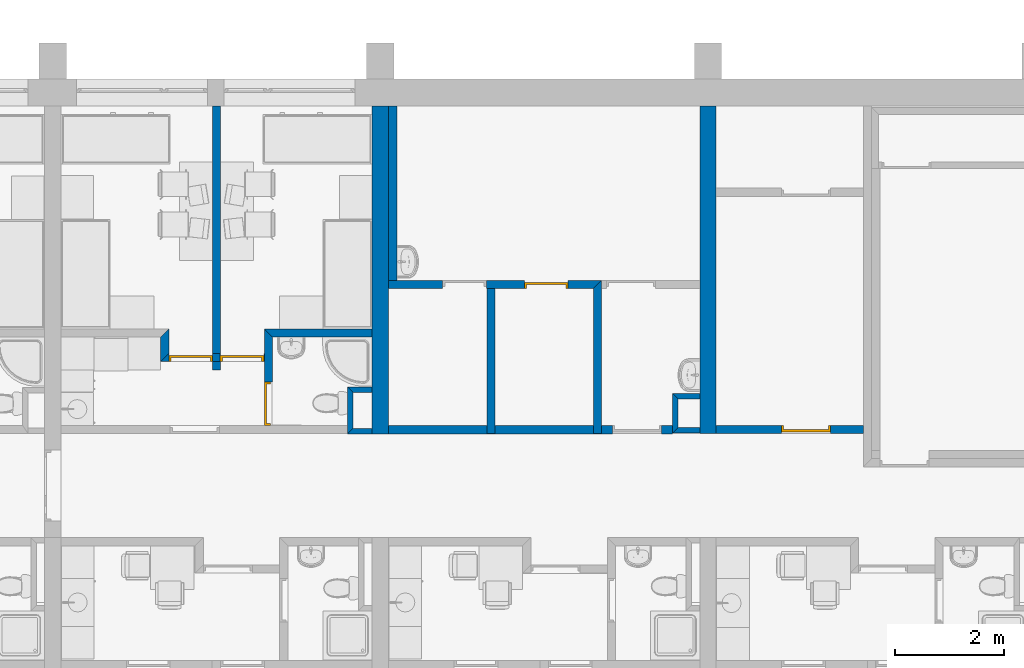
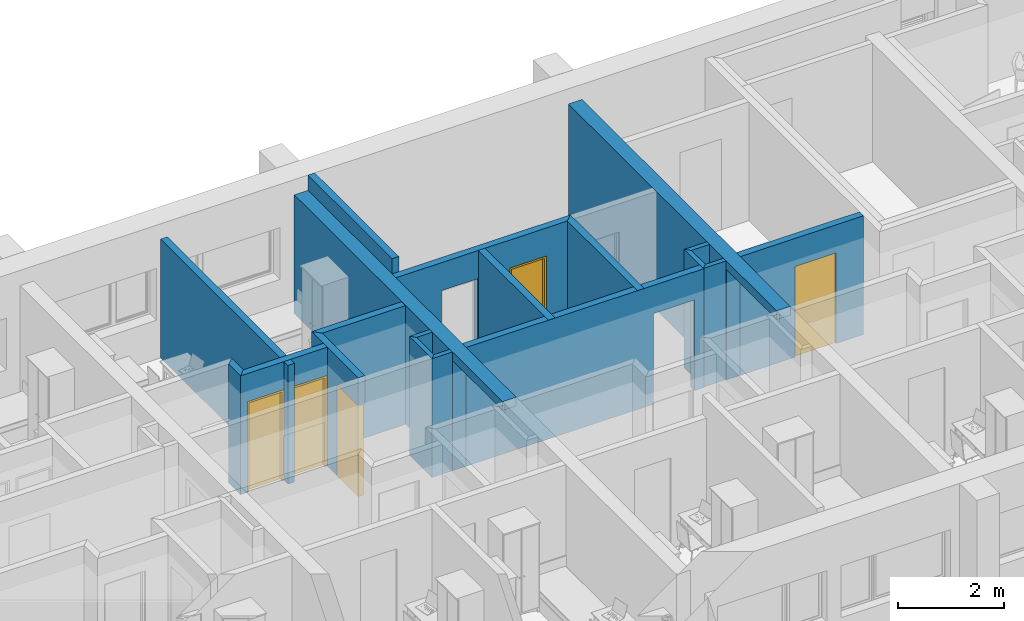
# One storey, part 8 of 172: 19 walls, 5 doors, 9 openings.
"""IFC2X3 building model written with IfcOpenShell, lengths in millimetres."""

import ifcopenshell
import ifcopenshell.guid

model = None  # the IFC model being written
_history = None  # IfcOwnerHistory: only IFC2X3 demands one
_inside = {}  # id of a spatial element -> (the spatial element, [elements in it])
_under = {}  # id of a project, library or spatial element -> (it, [spatial elements below it])
_declared = {}  # id of a project -> (the project, [libraries it declares])
_typed = {}  # id of a type object -> (the type object, [elements of that type])
_made_of = {}  # id of a material, layer set ... -> (it, [elements and type objects made of it])


def new_model(schema):
    """Start an empty IFC model of exactly this schema.

    Asked for "IFC4X3", IfcOpenShell would pick the latest addendum, in which some entities
    have other attributes; the version numbers below select the first issue.
    IFC2X3 requires an IfcOwnerHistory on every rooted entity: one is made here for all.
    """
    global model, _history
    if schema == "IFC4X3":
        model = ifcopenshell.file(schema_version=(4, 3, 0, 0))
    else:
        model = ifcopenshell.file(schema=schema)
    _inside.clear()
    _under.clear()
    _declared.clear()
    _typed.clear()
    _made_of.clear()
    _history = None
    if model.schema == "IFC2X3":
        org = make("IfcOrganization", Name="unknown")
        user = make(
            "IfcPersonAndOrganization",
            ThePerson=make("IfcPerson", FamilyName="unknown"),
            TheOrganization=org,
        )
        app = make(
            "IfcApplication",
            ApplicationDeveloper=org,
            Version="unknown",
            ApplicationFullName="unknown",
            ApplicationIdentifier="unknown",
        )
        _history = make(
            "IfcOwnerHistory",
            OwningUser=user,
            OwningApplication=app,
            ChangeAction="ADDED",
            CreationDate=0,
        )
    return model


def make(cls, **values):
    """One entity of the class cls with the attributes given. An attribute that is None is left unset."""
    return model.create_entity(
        cls, **{name: value for name, value in values.items() if value is not None}
    )


def entity(cls, *values):
    """Any entity or typed value of the class cls, its attributes in the order of the schema. None: left unset."""
    e = model.create_entity(cls)
    for i, value in enumerate(values):
        if value is not None:
            e[i] = value
    return e


def rooted(cls, **values):
    """An entity with a GlobalId (a new one), such as an element, a storey or a relation."""
    return make(cls, GlobalId=ifcopenshell.guid.new(), OwnerHistory=_history, **values)


def si_unit(unit_type, name, prefix=None):
    """IfcSIUnit, for example si_unit("LENGTHUNIT", "METRE", prefix="MILLI")."""
    return make("IfcSIUnit", UnitType=unit_type, Prefix=prefix, Name=name)


def converted_unit(unit_type, name, factor, base, dimensions=None, offset=None):
    """IfcConversionBasedUnit, such as the inch: factor (a typed value) times the base unit."""
    return make(
        "IfcConversionBasedUnit"
        if offset is None
        else "IfcConversionBasedUnitWithOffset",
        ConversionOffset=offset,
        Dimensions=None
        if dimensions is None
        else entity("IfcDimensionalExponents", *dimensions),
        UnitType=unit_type,
        Name=name,
        ConversionFactor=make(
            "IfcMeasureWithUnit", ValueComponent=factor, UnitComponent=base
        ),
    )


def money_unit(currency):
    """IfcMonetaryUnit."""
    return make("IfcMonetaryUnit", Currency=currency)


def assignment(units):
    """IfcUnitAssignment: the units of a project."""
    return None if units is None else make("IfcUnitAssignment", Units=units)


def point(xyz):
    """IfcCartesianPoint."""
    return None if xyz is None else make("IfcCartesianPoint", Coordinates=xyz)


def direction(xyz):
    """IfcDirection."""
    return None if xyz is None else make("IfcDirection", DirectionRatios=xyz)


def frame(location, z_axis=None, x_axis=None):
    """IfcAxis2Placement3D, a coordinate frame: its origin and axes. An axis left out is left unset."""
    return make(
        "IfcAxis2Placement3D",
        Location=point(location),
        Axis=direction(z_axis),
        RefDirection=direction(x_axis),
    )


def origin_with_axes():
    """The frame at (0, 0, 0) with the z axis (0, 0, 1) and the x axis (1, 0, 0) written out."""
    return frame((0.0, 0.0, 0.0), z_axis=(0.0, 0.0, 1.0), x_axis=(1.0, 0.0, 0.0))


def place(relative_to, where):
    """IfcLocalPlacement: puts the frame where relative to a parent placement (None: the world)."""
    return make(
        "IfcLocalPlacement", PlacementRelTo=relative_to, RelativePlacement=where
    )


def context(
    kind, dimensions, precision=None, world=None, true_north=None, identifier=None
):
    """IfcGeometricRepresentationContext, for example the 3D "Model" context."""
    return make(
        "IfcGeometricRepresentationContext",
        ContextIdentifier=identifier,
        ContextType=kind,
        CoordinateSpaceDimension=dimensions,
        Precision=precision,
        WorldCoordinateSystem=world,
        TrueNorth=true_north,
    )


def subcontext(parent, identifier, kind, view, scale=None):
    """IfcGeometricRepresentationSubContext, for example "Body" below "Model"."""
    return make(
        "IfcGeometricRepresentationSubContext",
        ContextIdentifier=identifier,
        ContextType=kind,
        ParentContext=parent,
        TargetScale=scale,
        TargetView=view,
    )


def project(units=None, contexts=None):
    """IfcProject with its units and contexts."""
    return rooted(
        "IfcProject",
        Name="project",
        RepresentationContexts=contexts,
        UnitsInContext=assignment(units),
    )


def spatial(cls, under=None, at=None, **own):
    """A site, building, storey or space (cls), placed at a placement, below another one or the project."""
    s = rooted(cls, ObjectPlacement=at, **own)
    if under is not None:
        _under.setdefault(under.id(), (under, []))[1].append(s)
    return s


def polyline(points):
    """IfcPolyline through the points."""
    return make("IfcPolyline", Points=[point(p) for p in points])


def outline(outer, holes=None, kind="AREA"):
    """IfcArbitraryClosedProfileDef: a profile drawn as a closed curve; with holes, ...WithVoids."""
    if holes is None:
        return make("IfcArbitraryClosedProfileDef", ProfileType=kind, OuterCurve=outer)
    return make(
        "IfcArbitraryProfileDefWithVoids",
        ProfileType=kind,
        OuterCurve=outer,
        InnerCurves=holes,
    )


def extrude(swept, where, along, depth):
    """IfcExtrudedAreaSolid: the profile swept, set in the frame where, extruded along a direction by depth."""
    return make(
        "IfcExtrudedAreaSolid",
        SweptArea=swept,
        Position=where,
        ExtrudedDirection=direction(along),
        Depth=depth,
    )


def faces_of(points, faces, orient=None, outer=None):
    """IfcFace entities. A face is a list of loops; a loop is a list of indices into points, from 0.

    orient and outer hold one flag for each loop. By default every Orientation is true, the
    first loop of a face is its IfcFaceOuterBound and the others are IfcFaceBound.
    """
    made = []
    for i, loops in enumerate(faces):
        bounds = []
        for j, loop in enumerate(loops):
            is_outer = j == 0 if outer is None else outer[i][j]
            bounds.append(
                make(
                    "IfcFaceOuterBound" if is_outer else "IfcFaceBound",
                    Bound=make("IfcPolyLoop", Polygon=[points[k] for k in loop]),
                    Orientation=True if orient is None else orient[i][j],
                )
            )
        made.append(make("IfcFace", Bounds=bounds))
    return made


def faceted_brep(points, faces, orient=None, outer=None, voids=None):
    """IfcFacetedBrep: a solid bounded by flat faces; with voids (closed shells), ...WithVoids."""
    shared = [point(p) for p in points]
    hull = make("IfcClosedShell", CfsFaces=faces_of(shared, faces, orient, outer))
    if voids is None:
        return make("IfcFacetedBrep", Outer=hull)
    return make(
        "IfcFacetedBrepWithVoids",
        Outer=hull,
        Voids=[
            make(cls, CfsFaces=faces_of(shared, fs, o, b)) for cls, fs, o, b in voids
        ],
    )


def shape(context_of_items, identifier, shape_type, items):
    """IfcShapeRepresentation: the items that make up one representation, for example the "Body"."""
    return make(
        "IfcShapeRepresentation",
        ContextOfItems=context_of_items,
        RepresentationIdentifier=identifier,
        RepresentationType=shape_type,
        Items=items,
    )


def source(mapping_origin, context_of_items, identifier, shape_type, items):
    """IfcRepresentationMap: a shape defined once, which mapped items show again and again."""
    return make(
        "IfcRepresentationMap",
        MappingOrigin=mapping_origin,
        MappedRepresentation=shape(context_of_items, identifier, shape_type, items),
    )


def transform(
    local_origin,
    x_axis=None,
    y_axis=None,
    z_axis=None,
    scale=None,
    scale2=None,
    scale3=None,
    uniform=True,
):
    """IfcCartesianTransformationOperator3D, or its non-uniform kind. x_axis, y_axis, z_axis: its Axis1, 2, 3."""
    if uniform:
        return make(
            "IfcCartesianTransformationOperator3D",
            Axis1=direction(x_axis),
            Axis2=direction(y_axis),
            LocalOrigin=point(local_origin),
            Scale=scale,
            Axis3=direction(z_axis),
        )
    return make(
        "IfcCartesianTransformationOperator3DnonUniform",
        Axis1=direction(x_axis),
        Axis2=direction(y_axis),
        LocalOrigin=point(local_origin),
        Scale=scale,
        Axis3=direction(z_axis),
        Scale2=scale2,
        Scale3=scale3,
    )


def mapped(mapping_source, mapping_target):
    """IfcMappedItem: shows the shape of a source again, moved by a transform."""
    return make(
        "IfcMappedItem", MappingSource=mapping_source, MappingTarget=mapping_target
    )


def material(Name=None, Category=None):
    """IfcMaterial."""
    return make("IfcMaterial", Name=Name, Category=Category)


def material_list(materials):
    """IfcMaterialList."""
    return make("IfcMaterialList", Materials=materials)


def layer(
    of_material, thickness, ventilated=None, Name=None, Category=None, Priority=None
):
    """IfcMaterialLayer: one layer of a wall or slab, of a material (None: an air gap)."""
    return make(
        "IfcMaterialLayer",
        Material=of_material,
        LayerThickness=thickness,
        IsVentilated=ventilated,
        Name=Name,
        Category=Category,
        Priority=Priority,
    )


def layer_set(layers, Name=None):
    """IfcMaterialLayerSet."""
    return make("IfcMaterialLayerSet", MaterialLayers=layers, LayerSetName=Name)


def layer_usage(for_layer_set, set_direction, sense, offset, extent=None):
    """IfcMaterialLayerSetUsage: how a layer set lies in its element."""
    return make(
        "IfcMaterialLayerSetUsage",
        ForLayerSet=for_layer_set,
        LayerSetDirection=set_direction,
        DirectionSense=sense,
        OffsetFromReferenceLine=offset,
        ReferenceExtent=extent,
    )


def made_of(thing, what):
    """Note that an element or type object is made of a material, layer set ...; save() writes the relation."""
    if what is not None:
        _made_of.setdefault(what.id(), (what, []))[1].append(thing)
    return thing


def type_object(cls, material=None, **own):
    """A type object (cls), such as IfcWallType, which elements share."""
    return made_of(rooted(cls, **own), material)


def element(
    cls,
    number,
    at=None,
    inside=None,
    cuts=None,
    type_object=None,
    material=None,
    context=None,
    identifier="Body",
    shape_type=None,
    held_by="IfcProductDefinitionShape",
    body=None,
    shapes=None,
    **own,
):
    """One element of the class cls, such as IfcWall. Its Tag is "e" and its number.

    at: its placement. inside: the storey or other place that contains it. cuts: it is an
    opening in that element (IfcRelVoidsElement). A single representation is given by context,
    identifier, shape_type and body (its items); several are given by shapes. held_by: the class
    of the entity that holds the representations. save() writes the other relations.
    """
    e = rooted(cls, Tag="e%d" % number, ObjectPlacement=at, **own)
    if body is not None:
        shapes = [shape(context, identifier, shape_type, body)]
    if shapes is not None:
        e.Representation = make(held_by, Representations=shapes)
    if inside is not None:
        _inside.setdefault(inside.id(), (inside, []))[1].append(e)
    if cuts is not None:
        rooted(
            "IfcRelVoidsElement", RelatingBuildingElement=cuts, RelatedOpeningElement=e
        )
    if type_object is not None:
        _typed.setdefault(type_object.id(), (type_object, []))[1].append(e)
    return made_of(e, material)


def fill(opening, filler):
    """IfcRelFillsElement: the door or window that sits in an opening."""
    return rooted(
        "IfcRelFillsElement",
        RelatingOpeningElement=opening,
        RelatedBuildingElement=filler,
    )


def aggregate(whole, parts):
    """IfcRelAggregates: a whole, such as a stair, and the parts it consists of."""
    return rooted("IfcRelAggregates", RelatingObject=whole, RelatedObjects=parts)


def save(model, path):
    """Write the relations noted so far, then the file.

    IfcRelAggregates (storeys below a building ...), IfcRelContainedInSpatialStructure (elements
    in a storey), IfcRelDefinesByType, IfcRelAssociatesMaterial and IfcRelDeclares: one each for
    every whole, place, type object, material and project.
    """
    for whole, parts in _under.values():
        aggregate(whole, parts)
    for where, things in _inside.values():
        rooted(
            "IfcRelContainedInSpatialStructure",
            RelatedElements=things,
            RelatingStructure=where,
        )
    for kind, things in _typed.values():
        rooted("IfcRelDefinesByType", RelatedObjects=things, RelatingType=kind)
    for what, things in _made_of.values():
        rooted("IfcRelAssociatesMaterial", RelatedObjects=things, RelatingMaterial=what)
    for by, libraries in _declared.values():
        rooted("IfcRelDeclares", RelatingContext=by, RelatedDefinitions=libraries)
    model.write(path)


model = new_model("IFC2X3")

# Units and contexts
model_context = context("Model", 3, precision=1e-05, world=origin_with_axes(), true_north=direction((0.0, 1.0)))
body_context = subcontext(model_context, "Body", "Model", "MODEL_VIEW")
ifc_project = project(units=[si_unit("LENGTHUNIT", "METRE", prefix="MILLI"), si_unit("AREAUNIT", "SQUARE_METRE"), si_unit("VOLUMEUNIT", "CUBIC_METRE"), converted_unit("PLANEANGLEUNIT", "DEGREE", entity("IfcPlaneAngleMeasure", 0.0174532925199), si_unit("PLANEANGLEUNIT", "RADIAN"), dimensions=[0, 0, 0, 0, 0, 0, 0]), si_unit("SOLIDANGLEUNIT", "STERADIAN"), money_unit("USD"), converted_unit("TIMEUNIT", "Year", entity("IfcTimeMeasure", 31556926.0), si_unit("TIMEUNIT", "SECOND"), dimensions=[0, 0, 0, 0, 0, 0, 0]), si_unit("MASSUNIT", "GRAM"), si_unit("THERMODYNAMICTEMPERATUREUNIT", "DEGREE_CELSIUS"), si_unit("LUMINOUSINTENSITYUNIT", "LUMEN")], contexts=[model_context])

# Site, building, storey
site_placement = place(None, origin_with_axes())
site = spatial("IfcSite", under=ifc_project, at=site_placement, Name="Site", CompositionType="ELEMENT")
building_placement = place(site_placement, origin_with_axes())
building = spatial("IfcBuilding", under=site, at=building_placement, Name="Building", CompositionType="ELEMENT")
storey_placement = place(building_placement, frame((0.0, 0.0, 3200.0), z_axis=(0.0, 0.0, 1.0), x_axis=(1.0, 0.0, 0.0)))
storey = spatial("IfcBuildingStorey", under=building, at=storey_placement, Name="3KORRUS", CompositionType="ELEMENT", Elevation=3200.0)

# Wall, opening
ifc_material_1 = material(Name="UmbKipsplaat")
ifc_layer_1 = layer(ifc_material_1, 13.0, ventilated="UNKNOWN")
ifc_layer_2 = layer(ifc_material_1, 13.0, ventilated="UNKNOWN")
ifc_material_2 = material(Name="SOOJUSTUS MINERAALVILL")
ifc_layer_3 = layer(ifc_material_2, 98.0, ventilated="UNKNOWN")
ifc_layer_4 = layer(ifc_material_1, 13.0, ventilated="UNKNOWN")
ifc_layer_5 = layer(ifc_material_1, 13.0, ventilated="UNKNOWN")
ifc_layer_set_1 = layer_set([ifc_layer_1, ifc_layer_2, ifc_layer_3, ifc_layer_4, ifc_layer_5], Name="kipssein150")
ifc_layer_usage_1 = layer_usage(ifc_layer_set_1, "AXIS2", "POSITIVE", 0.0)
wall_type_1 = type_object("IfcWallType", Name="kipssein150 150", PredefinedType="NOTDEFINED")
wall_1_placement = place(storey_placement, frame((-29990.2967033, -11139.2398994, 0.0), z_axis=(0.0, 0.0, 1.0), x_axis=(1.0, 0.0, 0.0)))
wall_1 = element("IfcWallStandardCase", 1, at=wall_1_placement, inside=storey, type_object=wall_type_1, material=ifc_layer_usage_1, Name="SS1", ObjectType="SS1", context=body_context, shape_type="SweptSolid", body=[
    extrude(outline(polyline([(0.0, 0.0), (5200.0, 0.0), (5200.0, 150.0), (0.0, 150.0), (0.0, 0.0)])), origin_with_axes(), (0.0, 0.0, 1.0), 2750.0),
])
opening_1_placement = place(wall_1_placement, frame((4550.15586262, 0.0, 0.0), z_axis=(0.0, 0.0, 1.0), x_axis=(1.0, 0.0, 0.0)))
element("IfcOpeningElement", 2, at=opening_1_placement, cuts=wall_1, Name="SU2-6", context=body_context, shape_type="SweptSolid", body=[
    extrude(outline(polyline([(-450.0, 0.0), (450.0, 0.0), (450.0, 2100.0), (-450.0, 2100.0), (-450.0, 0.0)])), frame((0.0, -150.0, 0.0), z_axis=(0.0, -1.0, 0.0), x_axis=(1.0, 0.0, 0.0)), (0.0, 0.0, -1.0), 450.0),
])

# Wall, opening, door
ifc_layer_usage_2 = layer_usage(ifc_layer_set_1, "AXIS2", "POSITIVE", 0.0)
wall_2_placement = place(storey_placement, frame((-23990.2967033, -11136.6041088, 0.0), z_axis=(0.0, 0.0, 1.0), x_axis=(1.0, 0.0, 0.0)))
wall_2 = element("IfcWallStandardCase", 3, at=wall_2_placement, inside=storey, type_object=wall_type_1, material=ifc_layer_usage_2, Name="SS1", ObjectType="SS1", context=body_context, shape_type="SweptSolid", body=[
    extrude(outline(polyline([(0.0, 0.0), (2696.4969239, 0.0), (2696.4969239, 150.0), (0.0, 150.0), (0.0, 0.0)])), origin_with_axes(), (0.0, 0.0, 1.0), 2750.0),
])
opening_2_placement = place(wall_2_placement, frame((1646.4969239, 0.0, 0.0), z_axis=(0.0, 0.0, 1.0), x_axis=(1.0, 0.0, 0.0)))
opening_2 = element("IfcOpeningElement", 4, at=opening_2_placement, cuts=wall_2, Name="SU2-3", context=body_context, shape_type="SweptSolid", body=[
    extrude(outline(polyline([(-450.0, 0.0), (450.0, 0.0), (450.0, 2100.0), (-450.0, 2100.0), (-450.0, 0.0)])), frame((0.0, -150.0, 0.0), z_axis=(0.0, -1.0, 0.0), x_axis=(1.0, 0.0, 0.0)), (0.0, 0.0, -1.0), 450.0),
])
ifc_material_3 = material(Name="Background")
ifc_material_list = material_list([ifc_material_3])
door_style_1 = type_object("IfcDoorStyle", Name="Door 19", ConstructionType="NOTDEFINED", OperationType="SINGLE_SWING_LEFT", ParameterTakesPrecedence=False, Sizeable=False)
shared_shape_1 = source(origin_with_axes(), body_context, "Body", "Brep", [
    faceted_brep([(410.0, -75.0, 0.0), (410.0, -150.0, 0.0), (410.0, -150.0, 2060.0), (410.0, -75.0, 2060.0), (422.0, -75.0, 0.0), (422.0, -35.0, 0.0), (450.0, -35.0, 0.0), (450.0, -150.0, 0.0), (450.0, -150.0, 2060.0), (422.0, -75.0, 2060.0), (450.0, -35.0, 2060.0), (422.0, -35.0, 2060.0)], [[[0, 1, 2, 3]], [[4, 5, 6, 7, 1, 0]], [[2, 1, 7, 8]], [[9, 3, 2, 8, 10, 11]], [[9, 4, 0, 3]], [[11, 5, 4, 9]], [[11, 10, 6, 5]], [[7, 6, 10, 8]]]),
    faceted_brep([(-422.0, -75.0, 2060.0), (-422.0, -35.0, 2060.0), (-450.0, -35.0, 2060.0), (-450.0, -150.0, 2060.0), (-410.0, -150.0, 2060.0), (-410.0, -75.0, 2060.0), (-422.0, -75.0, 0.0), (-422.0, -35.0, 0.0), (-450.0, -35.0, 0.0), (-450.0, -150.0, 0.0), (-410.0, -150.0, 0.0), (-410.0, -75.0, 0.0)], [[[0, 1, 2, 3, 4, 5]], [[0, 6, 7, 1]], [[7, 8, 2, 1]], [[3, 2, 8, 9]], [[4, 3, 9, 10]], [[5, 4, 10, 11]], [[5, 11, 6, 0]], [[6, 11, 10, 9, 8, 7]]]),
    faceted_brep([(422.0, -35.0, 2072.0), (-422.0, -35.0, 2072.0), (-422.0, -35.0, 2060.0), (-450.0, -35.0, 2060.0), (-450.0, -35.0, 2100.0), (450.0, -35.0, 2100.0), (450.0, -35.0, 2060.0), (422.0, -35.0, 2060.0), (422.0, -75.0, 2072.0), (-422.0, -75.0, 2072.0), (-422.0, -75.0, 2060.0), (-410.0, -75.0, 2060.0), (-410.0, -150.0, 2060.0), (-450.0, -150.0, 2060.0), (-450.0, -150.0, 2100.0), (450.0, -150.0, 2100.0), (450.0, -150.0, 2060.0), (422.0, -75.0, 2060.0), (410.0, -150.0, 2060.0), (410.0, -75.0, 2060.0)], [[[0, 1, 2, 3, 4, 5, 6, 7]], [[0, 8, 9, 1]], [[1, 9, 10, 2]], [[10, 11, 12, 13, 3, 2]], [[14, 4, 3, 13]], [[15, 5, 4, 14]], [[16, 6, 5, 15]], [[17, 7, 6, 16, 18, 19]], [[7, 17, 8, 0]], [[10, 9, 8, 17, 19, 11]], [[19, 18, 12, 11]], [[13, 12, 18, 16, 15, 14]]]),
    faceted_brep([(-422.0, -35.0, 0.0), (422.0, -35.0, 0.0), (422.0, -75.0, 0.0), (-422.0, -75.0, 0.0), (-422.0, -35.0, 2072.0), (422.0, -35.0, 2072.0), (422.0, -75.0, 2072.0), (-422.0, -75.0, 2072.0)], [[[0, 1, 2, 3]], [[0, 4, 5, 1]], [[1, 5, 6, 2]], [[3, 2, 6, 7]], [[4, 0, 3, 7]], [[5, 4, 7, 6]]]),
])
door_1_placement = place(opening_2_placement, frame((450.0, 0.0, 0.0), z_axis=(0.0, 0.0, 1.0), x_axis=(-1.0, 0.0, 0.0)))
door_1 = element("IfcDoor", 5, at=door_1_placement, inside=storey, type_object=door_style_1, material=ifc_material_list, Name="SU2-3", ObjectType="Abiruumi uks", OverallHeight=2100.0, OverallWidth=900.0, context=body_context, shape_type="MappedRepresentation", body=[
    mapped(shared_shape_1, transform((450.0, 0.0, 0.0))),
])
fill(opening_2, door_1)

# Wall
ifc_layer_usage_3 = layer_usage(ifc_layer_set_1, "AXIS2", "POSITIVE", 0.0)
wall_3_placement = place(storey_placement, frame((-32265.2967033, -9367.37850445, 0.0), z_axis=(0.0, 0.0, 1.0), x_axis=(1.0, 0.0, 0.0)))
element("IfcWallStandardCase", 6, at=wall_3_placement, inside=storey, type_object=wall_type_1, material=ifc_layer_usage_3, Name="SS1", ObjectType="SS1", context=body_context, shape_type="SweptSolid", body=[
    extrude(outline(polyline([(150.0, 0.0), (1968.47359046, 0.0), (1968.47359046, 150.0), (0.0, 150.0), (150.0, 0.0)])), origin_with_axes(), (0.0, 0.0, 1.0), 2750.0),
])

# Wall, opening, door
ifc_layer_usage_4 = layer_usage(ifc_layer_set_1, "AXIS2", "POSITIVE", 0.0)
wall_4_placement = place(storey_placement, frame((-32265.2967033, -9367.37850445, 0.0), z_axis=(0.0, 0.0, 1.0), x_axis=(0.0, -1.0, 0.0)))
wall_4 = element("IfcWallStandardCase", 7, at=wall_4_placement, inside=storey, type_object=wall_type_1, material=ifc_layer_usage_4, Name="SS1", ObjectType="SS1", context=body_context, shape_type="SweptSolid", body=[
    extrude(outline(polyline([(-150.0, 0.0), (1619.22560435, 0.0), (1619.22560435, 150.0), (0.0, 150.0), (-150.0, 0.0)])), origin_with_axes(), (0.0, 0.0, 1.0), 2750.0),
])
opening_3_placement = place(wall_4_placement, frame((1219.22561508, 0.0, 0.0), z_axis=(0.0, 0.0, 1.0), x_axis=(1.0, 0.0, 0.0)))
opening_3 = element("IfcOpeningElement", 8, at=opening_3_placement, cuts=wall_4, Name="SU3-3", context=body_context, shape_type="SweptSolid", body=[
    extrude(outline(polyline([(-400.0, -2100.0), (400.0, -2100.0), (400.0, 0.0), (-400.0, 0.0), (-400.0, -2100.0)])), frame((0.0, 150.0, 0.0), z_axis=(0.0, 1.0, 0.0), x_axis=(1.0, 0.0, 0.0)), (0.0, 0.0, -1.0), 450.0),
])
door_style_2 = type_object("IfcDoorStyle", Name="Door 19", ConstructionType="NOTDEFINED", OperationType="SINGLE_SWING_LEFT", ParameterTakesPrecedence=False, Sizeable=False)
shared_shape_2 = source(origin_with_axes(), body_context, "Body", "Brep", [
    faceted_brep([(360.0, -40.0, 0.0), (360.0, -115.0, 0.0), (360.0, -115.0, 2060.0), (360.0, -40.0, 2060.0), (372.0, -40.0, 0.0), (372.0, 0.0, 0.0), (400.0, 0.0, 0.0), (400.0, -115.0, 0.0), (400.0, -115.0, 2060.0), (372.0, -40.0, 2060.0), (400.0, 0.0, 2060.0), (372.0, 0.0, 2060.0)], [[[0, 1, 2, 3]], [[4, 5, 6, 7, 1, 0]], [[2, 1, 7, 8]], [[9, 3, 2, 8, 10, 11]], [[9, 4, 0, 3]], [[11, 5, 4, 9]], [[11, 10, 6, 5]], [[7, 6, 10, 8]]]),
    faceted_brep([(-372.0, -40.0, 2060.0), (-372.0, 0.0, 2060.0), (-400.0, 0.0, 2060.0), (-400.0, -115.0, 2060.0), (-360.0, -115.0, 2060.0), (-360.0, -40.0, 2060.0), (-372.0, -40.0, 0.0), (-372.0, 0.0, 0.0), (-400.0, 0.0, 0.0), (-400.0, -115.0, 0.0), (-360.0, -115.0, 0.0), (-360.0, -40.0, 0.0)], [[[0, 1, 2, 3, 4, 5]], [[0, 6, 7, 1]], [[7, 8, 2, 1]], [[3, 2, 8, 9]], [[4, 3, 9, 10]], [[5, 4, 10, 11]], [[5, 11, 6, 0]], [[6, 11, 10, 9, 8, 7]]]),
    faceted_brep([(372.0, 0.0, 2072.0), (-372.0, 0.0, 2072.0), (-372.0, 0.0, 2060.0), (-400.0, 0.0, 2060.0), (-400.0, 0.0, 2100.0), (400.0, 0.0, 2100.0), (400.0, 0.0, 2060.0), (372.0, 0.0, 2060.0), (372.0, -40.0, 2072.0), (-372.0, -40.0, 2072.0), (-372.0, -40.0, 2060.0), (-360.0, -40.0, 2060.0), (-360.0, -115.0, 2060.0), (-400.0, -115.0, 2060.0), (-400.0, -115.0, 2100.0), (400.0, -115.0, 2100.0), (400.0, -115.0, 2060.0), (372.0, -40.0, 2060.0), (360.0, -115.0, 2060.0), (360.0, -40.0, 2060.0)], [[[0, 1, 2, 3, 4, 5, 6, 7]], [[0, 8, 9, 1]], [[1, 9, 10, 2]], [[10, 11, 12, 13, 3, 2]], [[14, 4, 3, 13]], [[15, 5, 4, 14]], [[16, 6, 5, 15]], [[17, 7, 6, 16, 18, 19]], [[7, 17, 8, 0]], [[10, 9, 8, 17, 19, 11]], [[19, 18, 12, 11]], [[13, 12, 18, 16, 15, 14]]]),
    faceted_brep([(-372.0, 0.0, 0.0), (372.0, 0.0, 0.0), (372.0, -40.0, 0.0), (-372.0, -40.0, 0.0), (-372.0, 0.0, 2072.0), (372.0, 0.0, 2072.0), (372.0, -40.0, 2072.0), (-372.0, -40.0, 2072.0)], [[[0, 1, 2, 3]], [[0, 4, 5, 1]], [[1, 5, 6, 2]], [[3, 2, 6, 7]], [[4, 0, 3, 7]], [[5, 4, 7, 6]]]),
])
door_2_placement = place(opening_3_placement, frame((400.0, 0.0, 0.0), z_axis=(0.0, 0.0, 1.0), x_axis=(-1.0, 0.0, 0.0)))
door_2 = element("IfcDoor", 9, at=door_2_placement, inside=storey, type_object=door_style_2, material=ifc_material_list, Name="SU3-3", ObjectType="WC-uks", OverallHeight=2100.0, OverallWidth=800.0, context=body_context, shape_type="MappedRepresentation", body=[
    mapped(shared_shape_2, transform((400.0, 0.0, 0.0))),
])
fill(opening_3, door_2)

# Walls
ifc_layer_usage_5 = layer_usage(ifc_layer_set_1, "AXIS2", "POSITIVE", 0.0)
wall_5_placement = place(storey_placement, frame((-33215.7435229, -5039.6041088, 0.0), z_axis=(0.0, 0.0, 1.0), x_axis=(0.0, -1.0, 0.0)))
element("IfcWallStandardCase", 10, at=wall_5_placement, inside=storey, type_object=wall_type_1, material=ifc_layer_usage_5, Name="SS1", ObjectType="SS1", context=body_context, shape_type="SweptSolid", body=[
    extrude(outline(polyline([(100.0, 0.0), (4926.2900173, 0.0), (4926.2900173, 150.0), (100.0, 150.0), (100.0, 0.0)])), origin_with_axes(), (0.0, 0.0, 1.0), 2750.0),
])
ifc_layer_usage_6 = layer_usage(ifc_layer_set_1, "AXIS2", "POSITIVE", 0.0)
wall_6_placement = place(storey_placement, frame((-26089.8233295, -11136.6041088, 0.0), z_axis=(0.0, 0.0, 1.0), x_axis=(0.0, 1.0, 0.0)))
element("IfcWallStandardCase", 11, at=wall_6_placement, inside=storey, type_object=wall_type_1, material=ifc_layer_usage_6, Name="SS1", ObjectType="SS1", context=body_context, shape_type="SweptSolid", body=[
    extrude(outline(polyline([(0.0, 0.0), (2806.95006189, 0.0), (2656.95006189, 150.0), (0.0, 150.0), (0.0, 0.0)])), origin_with_axes(), (0.0, 0.0, 1.0), 2750.0),
])

# Wall, openings, doors
ifc_layer_usage_7 = layer_usage(ifc_layer_set_1, "AXIS2", "POSITIVE", 0.0)
wall_7_placement = place(storey_placement, frame((-34015.7435229, -9815.8941261, 0.0), z_axis=(0.0, 0.0, 1.0), x_axis=(1.0, 0.0, 0.0)))
wall_7 = element("IfcWallStandardCase", 12, at=wall_7_placement, inside=storey, type_object=wall_type_1, material=ifc_layer_usage_7, Name="SS1", ObjectType="SS1", context=body_context, shape_type="SweptSolid", body=[
    extrude(outline(polyline([(-150.0, 0.0), (1750.4468196, 0.0), (1750.4468196, 150.0), (0.0, 150.0), (-150.0, 0.0)])), origin_with_axes(), (0.0, 0.0, 1.0), 2750.0),
])
opening_4_placement = place(wall_7_placement, frame((1341.45577623, 0.0, 0.0), z_axis=(0.0, 0.0, 1.0), x_axis=(1.0, 0.0, 0.0)))
opening_4 = element("IfcOpeningElement", 13, at=opening_4_placement, cuts=wall_7, Name="SU3-5", context=body_context, shape_type="SweptSolid", body=[
    extrude(outline(polyline([(-400.0, 0.0), (400.0, 0.0), (400.0, 2100.0), (-400.0, 2100.0), (-400.0, 0.0)])), frame((0.0, 150.0, 0.0), z_axis=(0.0, 1.0, 0.0), x_axis=(-1.0, 0.0, 0.0)), (0.0, 0.0, -1.0), 450.0),
])
opening_5_placement = place(wall_7_placement, frame((400.0, 0.0, 0.0), z_axis=(0.0, 0.0, 1.0), x_axis=(1.0, 0.0, 0.0)))
opening_5 = element("IfcOpeningElement", 14, at=opening_5_placement, cuts=wall_7, Name="SU3-4", context=body_context, shape_type="SweptSolid", body=[
    extrude(outline(polyline([(-400.0, 0.0), (400.0, 0.0), (400.0, 2100.0), (-400.0, 2100.0), (-400.0, 0.0)])), frame((0.0, 150.0, 0.0), z_axis=(0.0, -1.0, 0.0), x_axis=(1.0, 0.0, 0.0)), (0.0, 0.0, 1.0), 450.0),
])
door_style_3 = type_object("IfcDoorStyle", Name="Door 19", ConstructionType="NOTDEFINED", OperationType="SINGLE_SWING_LEFT", ParameterTakesPrecedence=False, Sizeable=False)
shared_shape_3 = source(origin_with_axes(), body_context, "Body", "Brep", [
    faceted_brep([(360.0, -75.0, 0.0), (360.0, -150.0, 0.0), (360.0, -150.0, 2060.0), (360.0, -75.0, 2060.0), (372.0, -75.0, 0.0), (372.0, -35.0, 0.0), (400.0, -35.0, 0.0), (400.0, -150.0, 0.0), (400.0, -150.0, 2060.0), (372.0, -75.0, 2060.0), (400.0, -35.0, 2060.0), (372.0, -35.0, 2060.0)], [[[0, 1, 2, 3]], [[4, 5, 6, 7, 1, 0]], [[2, 1, 7, 8]], [[9, 3, 2, 8, 10, 11]], [[9, 4, 0, 3]], [[11, 5, 4, 9]], [[11, 10, 6, 5]], [[7, 6, 10, 8]]]),
    faceted_brep([(-372.0, -75.0, 2060.0), (-372.0, -35.0, 2060.0), (-400.0, -35.0, 2060.0), (-400.0, -150.0, 2060.0), (-360.0, -150.0, 2060.0), (-360.0, -75.0, 2060.0), (-372.0, -75.0, 0.0), (-372.0, -35.0, 0.0), (-400.0, -35.0, 0.0), (-400.0, -150.0, 0.0), (-360.0, -150.0, 0.0), (-360.0, -75.0, 0.0)], [[[0, 1, 2, 3, 4, 5]], [[0, 6, 7, 1]], [[7, 8, 2, 1]], [[3, 2, 8, 9]], [[4, 3, 9, 10]], [[5, 4, 10, 11]], [[5, 11, 6, 0]], [[6, 11, 10, 9, 8, 7]]]),
    faceted_brep([(372.0, -35.0, 2072.0), (-372.0, -35.0, 2072.0), (-372.0, -35.0, 2060.0), (-400.0, -35.0, 2060.0), (-400.0, -35.0, 2100.0), (400.0, -35.0, 2100.0), (400.0, -35.0, 2060.0), (372.0, -35.0, 2060.0), (372.0, -75.0, 2072.0), (-372.0, -75.0, 2072.0), (-372.0, -75.0, 2060.0), (-360.0, -75.0, 2060.0), (-360.0, -150.0, 2060.0), (-400.0, -150.0, 2060.0), (-400.0, -150.0, 2100.0), (400.0, -150.0, 2100.0), (400.0, -150.0, 2060.0), (372.0, -75.0, 2060.0), (360.0, -150.0, 2060.0), (360.0, -75.0, 2060.0)], [[[0, 1, 2, 3, 4, 5, 6, 7]], [[0, 8, 9, 1]], [[1, 9, 10, 2]], [[10, 11, 12, 13, 3, 2]], [[14, 4, 3, 13]], [[15, 5, 4, 14]], [[16, 6, 5, 15]], [[17, 7, 6, 16, 18, 19]], [[7, 17, 8, 0]], [[10, 9, 8, 17, 19, 11]], [[19, 18, 12, 11]], [[13, 12, 18, 16, 15, 14]]]),
    faceted_brep([(-372.0, -35.0, 0.0), (372.0, -35.0, 0.0), (372.0, -75.0, 0.0), (-372.0, -75.0, 0.0), (-372.0, -35.0, 2072.0), (372.0, -35.0, 2072.0), (372.0, -75.0, 2072.0), (-372.0, -75.0, 2072.0)], [[[0, 1, 2, 3]], [[0, 4, 5, 1]], [[1, 5, 6, 2]], [[3, 2, 6, 7]], [[4, 0, 3, 7]], [[5, 4, 7, 6]]]),
])
door_3_placement = place(opening_4_placement, frame((-400.0, 0.0, 0.0), z_axis=(0.0, 0.0, 1.0), x_axis=(1.0, 0.0, 0.0)))
door_3 = element("IfcDoor", 15, at=door_3_placement, inside=storey, type_object=door_style_3, material=ifc_material_list, Name="SU3-5", ObjectType="Toa uks", OverallHeight=2100.0, OverallWidth=800.0, context=body_context, shape_type="MappedRepresentation", body=[
    mapped(shared_shape_3, transform((400.0, 150.0, 0.0))),
])
fill(opening_4, door_3)
door_style_4 = type_object("IfcDoorStyle", Name="Door 19", ConstructionType="NOTDEFINED", OperationType="SINGLE_SWING_RIGHT", ParameterTakesPrecedence=False, Sizeable=False)
shared_shape_4 = source(origin_with_axes(), body_context, "Body", "Brep", [
    faceted_brep([(-360.0, -75.0, 0.0), (-360.0, -75.0, 2060.0), (-360.0, -150.0, 2060.0), (-360.0, -150.0, 0.0), (-372.0, -75.0, 2060.0), (-372.0, -75.0, 0.0), (-372.0, -35.0, 2060.0), (-400.0, -35.0, 2060.0), (-400.0, -150.0, 2060.0), (-400.0, -150.0, 0.0), (-400.0, -35.0, 0.0), (-372.0, -35.0, 0.0)], [[[0, 1, 2, 3]], [[4, 1, 0, 5]], [[4, 6, 7, 8, 2, 1]], [[2, 8, 9, 3]], [[5, 0, 3, 9, 10, 11]], [[6, 4, 5, 11]], [[6, 11, 10, 7]], [[9, 8, 7, 10]]]),
    faceted_brep([(372.0, -75.0, 2060.0), (360.0, -75.0, 2060.0), (360.0, -150.0, 2060.0), (400.0, -150.0, 2060.0), (400.0, -35.0, 2060.0), (372.0, -35.0, 2060.0), (372.0, -75.0, 0.0), (360.0, -75.0, 0.0), (360.0, -150.0, 0.0), (400.0, -150.0, 0.0), (400.0, -35.0, 0.0), (372.0, -35.0, 0.0)], [[[0, 1, 2, 3, 4, 5]], [[1, 0, 6, 7]], [[1, 7, 8, 2]], [[2, 8, 9, 3]], [[3, 9, 10, 4]], [[11, 5, 4, 10]], [[0, 5, 11, 6]], [[6, 11, 10, 9, 8, 7]]]),
    faceted_brep([(-372.0, -35.0, 2072.0), (-372.0, -35.0, 2060.0), (-400.0, -35.0, 2060.0), (-400.0, -35.0, 2100.0), (400.0, -35.0, 2100.0), (400.0, -35.0, 2060.0), (372.0, -35.0, 2060.0), (372.0, -35.0, 2072.0), (-372.0, -75.0, 2072.0), (-372.0, -75.0, 2060.0), (-360.0, -75.0, 2060.0), (-360.0, -150.0, 2060.0), (-400.0, -150.0, 2060.0), (-400.0, -150.0, 2100.0), (400.0, -150.0, 2100.0), (400.0, -150.0, 2060.0), (372.0, -75.0, 2060.0), (360.0, -150.0, 2060.0), (360.0, -75.0, 2060.0), (372.0, -75.0, 2072.0)], [[[0, 1, 2, 3, 4, 5, 6, 7]], [[1, 0, 8, 9]], [[9, 10, 11, 12, 2, 1]], [[12, 13, 3, 2]], [[13, 14, 4, 3]], [[14, 15, 5, 4]], [[16, 6, 5, 15, 17, 18]], [[7, 6, 16, 19]], [[0, 7, 19, 8]], [[16, 18, 10, 9, 8, 19]], [[10, 18, 17, 11]], [[15, 14, 13, 12, 11, 17]]]),
    faceted_brep([(372.0, -35.0, 0.0), (372.0, -75.0, 0.0), (-372.0, -75.0, 0.0), (-372.0, -35.0, 0.0), (372.0, -35.0, 2072.0), (372.0, -75.0, 2072.0), (-372.0, -75.0, 2072.0), (-372.0, -35.0, 2072.0)], [[[0, 1, 2, 3]], [[4, 5, 1, 0]], [[1, 5, 6, 2]], [[3, 2, 6, 7]], [[0, 3, 7, 4]], [[7, 6, 5, 4]]]),
])
door_4_placement = place(opening_5_placement, frame((-400.0, 0.0, 0.0), z_axis=(0.0, 0.0, 1.0), x_axis=(1.0, 0.0, 0.0)))
door_4 = element("IfcDoor", 16, at=door_4_placement, inside=storey, type_object=door_style_4, material=ifc_material_list, Name="SU3-4", ObjectType="Toa uks", OverallHeight=2100.0, OverallWidth=800.0, context=body_context, shape_type="MappedRepresentation", body=[
    mapped(shared_shape_4, transform((400.0, 150.0, 0.0))),
])
fill(opening_5, door_4)

# Wall, openings, door
ifc_layer_usage_8 = layer_usage(ifc_layer_set_1, "AXIS2", "POSITIVE", 0.0)
wall_8_placement = place(storey_placement, frame((-29990.2967033, -8479.65404691, 0.0), z_axis=(0.0, 0.0, 1.0), x_axis=(1.0, 0.0, 0.0)))
wall_8 = element("IfcWallStandardCase", 17, at=wall_8_placement, inside=storey, type_object=wall_type_1, material=ifc_layer_usage_8, Name="SS1", ObjectType="SS1", context=body_context, shape_type="SweptSolid", body=[
    extrude(outline(polyline([(0.0, 0.0), (3750.4733738, 0.0), (3900.4733738, 150.0), (0.0, 150.0), (0.0, 0.0)])), origin_with_axes(), (0.0, 0.0, 1.0), 2750.0),
])
opening_6_placement = place(wall_8_placement, frame((2890.50362562, 0.0, 0.0), z_axis=(0.0, 0.0, 1.0), x_axis=(1.0, 0.0, 0.0)))
opening_6 = element("IfcOpeningElement", 18, at=opening_6_placement, cuts=wall_8, Name="SU3-1", context=body_context, shape_type="SweptSolid", body=[
    extrude(outline(polyline([(-400.0, 0.0), (400.0, 0.0), (400.0, 2100.0), (-400.0, 2100.0), (-400.0, 0.0)])), frame((0.0, 150.0, 0.0), z_axis=(0.0, 1.0, 0.0), x_axis=(-1.0, 0.0, 0.0)), (0.0, 0.0, -1.0), 450.0),
])
opening_7_placement = place(wall_8_placement, frame((1390.52700258, 0.0, 0.0), z_axis=(0.0, 0.0, 1.0), x_axis=(1.0, 0.0, 0.0)))
element("IfcOpeningElement", 19, at=opening_7_placement, cuts=wall_8, Name="SU3-1", context=body_context, shape_type="SweptSolid", body=[
    extrude(outline(polyline([(-400.0, -2100.0), (400.0, -2100.0), (400.0, 0.0), (-400.0, 0.0), (-400.0, -2100.0)])), frame((0.0, -150.0, 0.0), z_axis=(0.0, -1.0, 0.0), x_axis=(-1.0, 0.0, 0.0)), (0.0, 0.0, -1.0), 450.0),
])
door_5_placement = place(opening_6_placement, frame((-400.0, 0.0, 0.0), z_axis=(0.0, 0.0, 1.0), x_axis=(1.0, 0.0, 0.0)))
door_5 = element("IfcDoor", 20, at=door_5_placement, inside=storey, type_object=door_style_3, material=ifc_material_list, Name="SU3-1", ObjectType="Abiruumi uks", OverallHeight=2100.0, OverallWidth=800.0, context=body_context, shape_type="MappedRepresentation", body=[
    mapped(shared_shape_3, transform((400.0, 150.0, 0.0))),
])
fill(opening_6, door_5)

# Walls
ifc_layer_usage_9 = layer_usage(ifc_layer_set_1, "AXIS2", "POSITIVE", 0.0)
wall_9_placement = place(storey_placement, frame((-28039.7697007, -11136.6041088, 0.0), z_axis=(0.0, 0.0, 1.0), x_axis=(0.0, 1.0, 0.0)))
element("IfcWallStandardCase", 21, at=wall_9_placement, inside=storey, type_object=wall_type_1, material=ifc_layer_usage_9, Name="SS1", ObjectType="SS1", context=body_context, shape_type="SweptSolid", body=[
    extrude(outline(polyline([(0.0, 0.0), (2660.95006189, 0.0), (2660.95006189, 150.0), (0.0, 150.0), (0.0, 0.0)])), origin_with_axes(), (0.0, 0.0, 1.0), 2750.0),
])
ifc_layer_usage_10 = layer_usage(ifc_layer_set_1, "AXIS2", "POSITIVE", 0.0)
wall_10_placement = place(storey_placement, frame((-29990.2967033, -5139.6041088, 0.0), z_axis=(0.0, 0.0, 1.0), x_axis=(0.0, -1.0, 0.0)))
element("IfcWallStandardCase", 22, at=wall_10_placement, inside=storey, type_object=wall_type_1, material=ifc_layer_usage_10, Name="SS1", ObjectType="SS1", context=body_context, shape_type="SweptSolid", body=[
    extrude(outline(polyline([(0.0, 0.0), (3190.04993811, 0.0), (3190.04993811, 150.0), (0.0, 150.0), (0.0, 0.0)])), origin_with_axes(), (0.0, 0.0, 1.0), 3100.0),
])
ifc_layer_usage_11 = layer_usage(ifc_layer_set_1, "AXIS2", "POSITIVE", -150.0)
wall_11_placement = place(storey_placement, frame((-34015.7435229, -9366.37850445, 0.0), z_axis=(0.0, 0.0, 1.0), x_axis=(0.0, -1.0, 0.0)))
element("IfcWallStandardCase", 23, at=wall_11_placement, inside=storey, type_object=wall_type_1, material=ifc_layer_usage_11, Name="SS1", ObjectType="SS1", context=body_context, shape_type="SweptSolid", body=[
    extrude(outline(polyline([(0.0, -150.0), (449.51562165, -150.0), (299.51562165, 0.0), (-150.0, 0.0), (0.0, -150.0)])), origin_with_axes(), (0.0, 0.0, 1.0), 2750.0),
])

# Wall, opening
ifc_material_4 = material(Name="Olemasolevad seinad tellis, uus viimistlus")
ifc_layer_6 = layer(ifc_material_4, 300.0, ventilated="UNKNOWN")
ifc_layer_set_2 = layer_set([ifc_layer_6], Name="Olemasolevad seinad tellis, uus viimistlus  300")
ifc_layer_usage_12 = layer_usage(ifc_layer_set_2, "AXIS2", "POSITIVE", 0.0)
wall_type_2 = type_object("IfcWallType", Name="Olemasolevad seinad tellis, uus viimistlus  300", PredefinedType="NOTDEFINED")
wall_12_placement = place(storey_placement, frame((-29990.2967033, -13036.3705726, 0.0), z_axis=(0.0, 0.0, 1.0), x_axis=(0.0, 1.0, 0.0)))
wall_12 = element("IfcWallStandardCase", 24, at=wall_12_placement, inside=storey, type_object=wall_type_2, material=ifc_layer_usage_12, Name="KS1", ObjectType="KS1", context=body_context, shape_type="SweptSolid", body=[
    extrude(outline(polyline([(0.0, 0.0), (7896.7664638, 0.0), (7896.7664638, 300.0), (0.0, 300.0), (0.0, 0.0)])), origin_with_axes(), (0.0, 0.0, 1.0), 2750.0),
])
opening_8_placement = place(wall_12_placement, frame((947.130673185, 0.0, 0.0), z_axis=(0.0, 0.0, 1.0), x_axis=(1.0, 0.0, 0.0)))
element("IfcOpeningElement", 25, at=opening_8_placement, cuts=wall_12, Name="DOO - 001", context=body_context, shape_type="SweptSolid", body=[
    extrude(outline(polyline([(-950.0, 2550.0), (-950.0, 0.0), (950.0, 0.0), (950.0, 2550.0), (-950.0, 2550.0)])), frame((0.0, 0.0, 0.0), z_axis=(0.0, -1.0, 0.0), x_axis=(1.0, 0.0, 0.0)), (0.0, 0.0, 1.0), 300.0),
    extrude(outline(polyline([(-950.0, 0.0), (-950.0, -2550.0), (950.0, -2550.0), (950.0, 0.0), (-950.0, 0.0)])), frame((0.0, 0.0, 0.0), z_axis=(0.0, 1.0, 0.0), x_axis=(1.0, 0.0, 0.0)), (0.0, 0.0, 1.0), 300.0),
])

ifc_layer_usage_13 = layer_usage(ifc_layer_set_2, "AXIS2", "POSITIVE", 0.0)
wall_13_placement = place(storey_placement, frame((-23990.2967033, -13033.6234808, 0.0), z_axis=(0.0, 0.0, 1.0), x_axis=(0.0, 1.0, 0.0)))
wall_13 = element("IfcWallStandardCase", 26, at=wall_13_placement, inside=storey, type_object=wall_type_2, material=ifc_layer_usage_13, Name="KS1", ObjectType="KS1", context=body_context, shape_type="SweptSolid", body=[
    extrude(outline(polyline([(0.0, 0.0), (7894.01937201, 0.0), (7894.01937201, 300.0), (0.0, 300.0), (0.0, 0.0)])), origin_with_axes(), (0.0, 0.0, 1.0), 2750.0),
])
opening_9_placement = place(wall_13_placement, frame((945.701476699, 0.0, 0.0), z_axis=(0.0, 0.0, 1.0), x_axis=(1.0, 0.0, 0.0)))
element("IfcOpeningElement", 27, at=opening_9_placement, cuts=wall_13, Name="DOO - 001", context=body_context, shape_type="SweptSolid", body=[
    extrude(outline(polyline([(-951.318, 2550.0), (-951.318, 0.0), (951.318, 0.0), (951.318, 2550.0), (-951.318, 2550.0)])), frame((0.0, 0.0, 0.0), z_axis=(0.0, -1.0, 0.0), x_axis=(1.0, 0.0, 0.0)), (0.0, 0.0, 1.0), 300.0),
    extrude(outline(polyline([(-951.318, 0.0), (-951.318, -2550.0), (951.318, -2550.0), (951.318, 0.0), (-951.318, 0.0)])), frame((0.0, 0.0, 0.0), z_axis=(0.0, 1.0, 0.0), x_axis=(1.0, 0.0, 0.0)), (0.0, 0.0, 1.0), 300.0),
])

# Walls
ifc_material_5 = material(Name="krohv")
ifc_layer_7 = layer(ifc_material_5, 2.0, ventilated="UNKNOWN")
ifc_layer_8 = layer(ifc_material_5, 10.0, ventilated="UNKNOWN")
ifc_material_6 = material(Name="Kergplokk")
ifc_layer_9 = layer(ifc_material_6, 76.0, ventilated="UNKNOWN")
ifc_layer_10 = layer(ifc_material_5, 10.0, ventilated="UNKNOWN")
ifc_layer_11 = layer(ifc_material_5, 2.0, ventilated="UNKNOWN")
ifc_layer_set_3 = layer_set([ifc_layer_7, ifc_layer_8, ifc_layer_9, ifc_layer_10, ifc_layer_11], Name="Kergplokk Bauroc 100")
ifc_layer_usage_14 = layer_usage(ifc_layer_set_3, "AXIS2", "POSITIVE", 0.0)
wall_type_3 = type_object("IfcWallType", Name="Kergplokk Bauroc 100 100", PredefinedType="NOTDEFINED")
wall_14_placement = place(storey_placement, frame((-30640.2967033, -11139.2398994, 0.0), z_axis=(0.0, 0.0, 1.0), x_axis=(1.0, 0.0, 0.0)))
element("IfcWallStandardCase", 28, at=wall_14_placement, inside=storey, type_object=wall_type_3, material=ifc_layer_usage_14, Name="SS2", ObjectType="SS2", context=body_context, shape_type="SweptSolid", body=[
    extrude(outline(polyline([(-100.0, 0.0), (350.0, 0.0), (350.0, 100.0), (0.0, 100.0), (-100.0, 0.0)])), origin_with_axes(), (0.0, 0.0, 1.0), 2750.0),
])
ifc_layer_usage_15 = layer_usage(ifc_layer_set_3, "AXIS2", "POSITIVE", -100.0)
wall_15_placement = place(storey_placement, frame((-24690.2967033, -10398.1388458, 0.0), z_axis=(0.0, 0.0, 1.0), x_axis=(1.0, 0.0, 0.0)))
element("IfcWallStandardCase", 29, at=wall_15_placement, inside=storey, type_object=wall_type_3, material=ifc_layer_usage_15, Name="SS2", ObjectType="SS2", context=body_context, shape_type="SweptSolid", body=[
    extrude(outline(polyline([(0.0, -100.0), (400.0, -100.0), (400.0, 0.0), (-100.0, 0.0), (0.0, -100.0)])), origin_with_axes(), (0.0, 0.0, 1.0), 2750.0),
])
ifc_layer_usage_16 = layer_usage(ifc_layer_set_3, "AXIS2", "POSITIVE", 0.0)
wall_16_placement = place(storey_placement, frame((-24690.2967033, -11024.6041088, 0.0), z_axis=(0.0, 0.0, 1.0), x_axis=(0.0, 1.0, 0.0)))
element("IfcWallStandardCase", 30, at=wall_16_placement, inside=storey, type_object=wall_type_3, material=ifc_layer_usage_16, Name="SS2", ObjectType="SS2", context=body_context, shape_type="SweptSolid", body=[
    extrude(outline(polyline([(0.0, 0.0), (526.465263, 0.0), (626.465263, 100.0), (-100.0, 100.0), (0.0, 0.0)])), origin_with_axes(), (0.0, 0.0, 1.0), 2750.0),
])
ifc_layer_usage_17 = layer_usage(ifc_layer_set_3, "AXIS2", "POSITIVE", -100.0)
wall_17_placement = place(storey_placement, frame((-30640.2967033, -10380.1041267, 0.0), z_axis=(0.0, 0.0, 1.0), x_axis=(0.0, -1.0, 0.0)))
element("IfcWallStandardCase", 31, at=wall_17_placement, inside=storey, type_object=wall_type_3, material=ifc_layer_usage_17, Name="SS2", ObjectType="SS2", context=body_context, shape_type="SweptSolid", body=[
    extrude(outline(polyline([(-100.0, -100.0), (759.1357727, -100.0), (659.1357727, 0.0), (0.0, 0.0), (-100.0, -100.0)])), origin_with_axes(), (0.0, 0.0, 1.0), 2750.0),
])
ifc_layer_usage_18 = layer_usage(ifc_layer_set_3, "AXIS2", "POSITIVE", -100.0)
wall_18_placement = place(storey_placement, frame((-24690.2967033, -11024.6041088, 0.0), z_axis=(0.0, 0.0, 1.0), x_axis=(1.0, 0.0, 0.0)))
element("IfcWallStandardCase", 32, at=wall_18_placement, inside=storey, type_object=wall_type_3, material=ifc_layer_usage_18, Name="SS2", ObjectType="SS2", context=body_context, shape_type="SweptSolid", body=[
    extrude(outline(polyline([(-100.0, -100.0), (400.0, -100.0), (400.0, 0.0), (0.0, 0.0), (-100.0, -100.0)])), origin_with_axes(), (0.0, 0.0, 1.0), 2750.0),
])
ifc_layer_usage_19 = layer_usage(ifc_layer_set_3, "AXIS2", "POSITIVE", 0.0)
wall_19_placement = place(storey_placement, frame((-30640.2967033, -10380.1041267, 0.0), z_axis=(0.0, 0.0, 1.0), x_axis=(1.0, 0.0, 0.0)))
element("IfcWallStandardCase", 33, at=wall_19_placement, inside=storey, type_object=wall_type_3, material=ifc_layer_usage_19, Name="SS2", ObjectType="SS2", context=body_context, shape_type="SweptSolid", body=[
    extrude(outline(polyline([(0.0, 0.0), (350.0, 0.0), (350.0, 100.0), (-100.0, 100.0), (0.0, 0.0)])), origin_with_axes(), (0.0, 0.0, 1.0), 2750.0),
])

save(model, "model.ifc")
